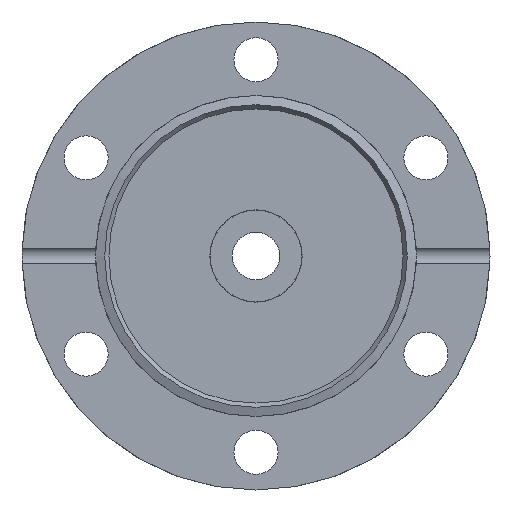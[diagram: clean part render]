
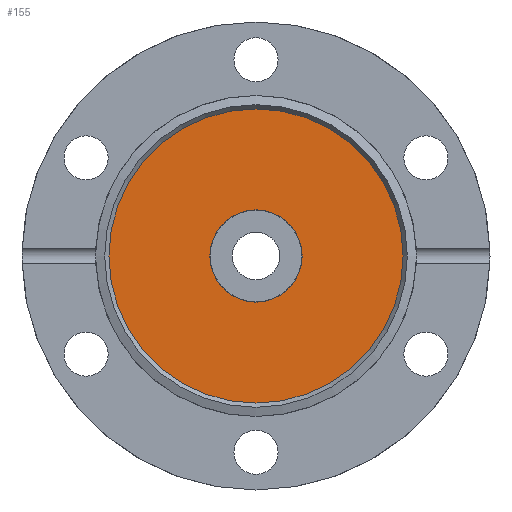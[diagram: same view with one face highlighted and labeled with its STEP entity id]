
A CAD part, left-side view. The second image highlights one B-rep face of the part: STEP entity #155.
In plain terms, the highlighted planar face has unit normal (-1, 0, 0).
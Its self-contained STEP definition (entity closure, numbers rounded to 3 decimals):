
#155 = ADVANCED_FACE( '', ( #321, #322 ), #323, .F. );
#321 = FACE_BOUND( '', #513, .T. );
#322 = FACE_OUTER_BOUND( '', #514, .T. );
#323 = PLANE( '', #515 );
#513 = EDGE_LOOP( '', ( #775 ) );
#514 = EDGE_LOOP( '', ( #776 ) );
#515 = AXIS2_PLACEMENT_3D( '', #777, #778, #779 );
#775 = ORIENTED_EDGE( '', *, *, #1018, .F. );
#776 = ORIENTED_EDGE( '', *, *, #1054, .T. );
#777 = CARTESIAN_POINT( '', ( -11.4, 0., 22. ) );
#778 = DIRECTION( '', ( 1., 0., 0. ) );
#779 = DIRECTION( '', ( 0., 0., -1. ) );
#1018 = EDGE_CURVE( '', #1182, #1182, #1183, .T. );
#1054 = EDGE_CURVE( '', #1238, #1238, #1239, .T. );
#1182 = VERTEX_POINT( '', #1397 );
#1183 = CIRCLE( '', #1398, 6.9 );
#1238 = VERTEX_POINT( '', #1509 );
#1239 = CIRCLE( '', #1510, 22. );
#1397 = CARTESIAN_POINT( '', ( -11.4, 0., 6.9 ) );
#1398 = AXIS2_PLACEMENT_3D( '', #1681, #1682, #1683 );
#1509 = CARTESIAN_POINT( '', ( -11.4, 0., 22. ) );
#1510 = AXIS2_PLACEMENT_3D( '', #1719, #1720, #1721 );
#1681 = CARTESIAN_POINT( '', ( -11.4, 0., 0. ) );
#1682 = DIRECTION( '', ( -1., 0., 0. ) );
#1683 = DIRECTION( '', ( 0., 0., 1. ) );
#1719 = CARTESIAN_POINT( '', ( -11.4, 0., 0. ) );
#1720 = DIRECTION( '', ( -1., 0., 0. ) );
#1721 = DIRECTION( '', ( 0., 0., 1. ) );
